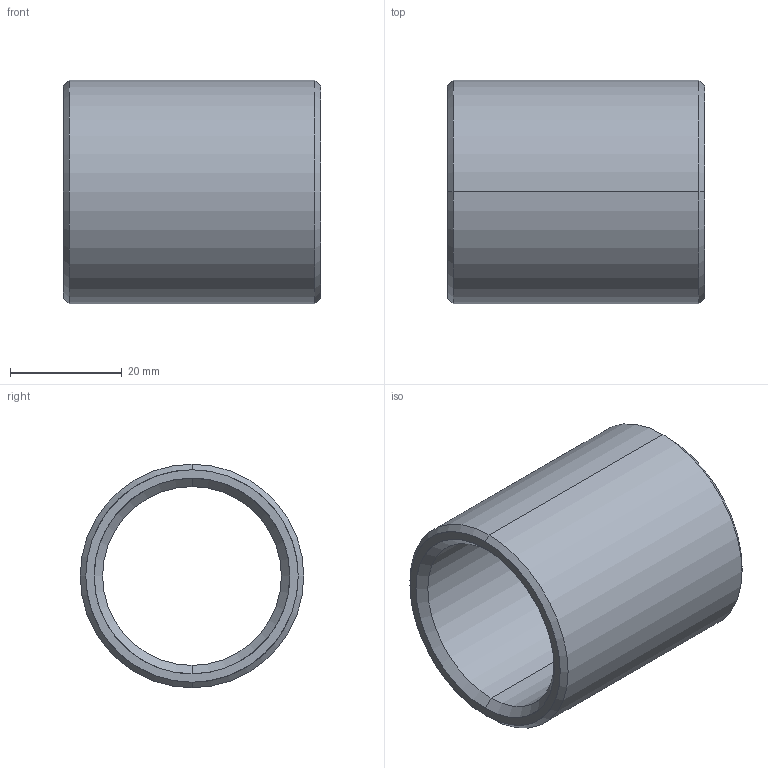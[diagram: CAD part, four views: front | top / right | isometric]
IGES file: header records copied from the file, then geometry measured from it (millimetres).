
Start section: START RECORD GO HERE.
Global section: file name: 352-32X46.igs; native system: DASSAULT SYSTEMES CATIA V5 R20 - www.3ds.com; preprocessor: CATIA Version 5 Release 20 ; author: Utente; organization: NB04-ASUS; date: 20210414.170225; units: millimetre
Bounding box: 46 x 40 x 40 mm (x, y, z)
Surface area: 11031.8 mm2 (no closed solid volume)
Topology: 0 solids, 0 shells, 14 faces, 88 edges, 88 vertices
Faces by surface type: revolution 12, plane 2
